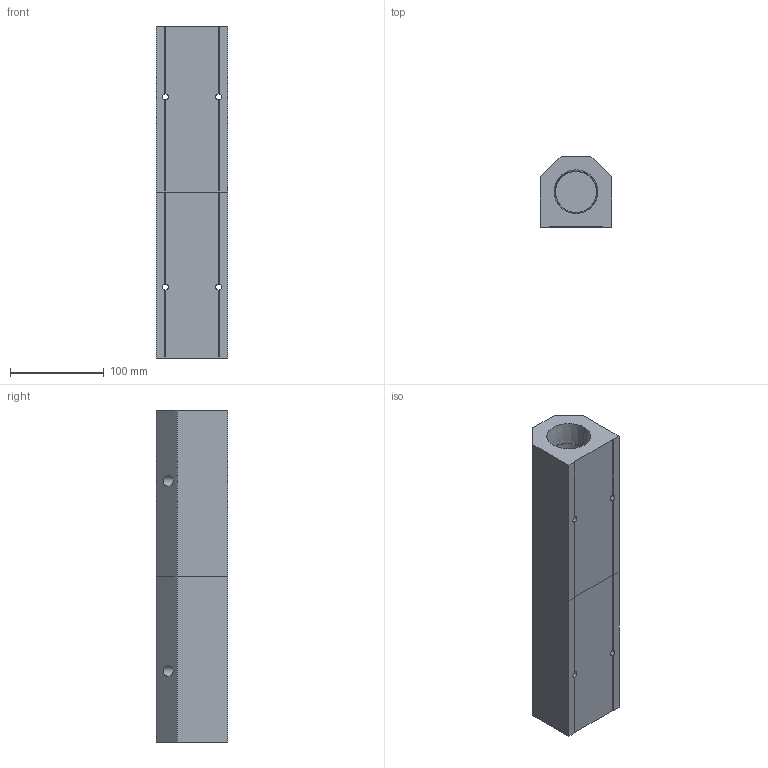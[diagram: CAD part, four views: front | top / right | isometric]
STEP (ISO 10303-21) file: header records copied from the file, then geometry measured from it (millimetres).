
FILE_DESCRIPTION (( 'STEP AP214' ), '1' );
FILE_NAME ('ALM6C-N8N24-355RB.step', '2022-02-07T09:39:44', ( '' ), ( '' ), 'SwSTEP 2.0', 'SolidWorks 2020', '' );
FILE_SCHEMA (( 'AUTOMOTIVE_DESIGN' ));
Length unit declared in the file: millimetre
Products named in the file (1): ALM6C-N8N24-355RB
Bounding box: 76.2 x 76.2 x 355 mm (x, y, z)
Volume: 1291718.5 mm3; surface area: 177211.8 mm2
Topology: 2 solids, 2 shells, 337 faces, 886 edges, 588 vertices
Faces by surface type: plane 214, bspline 87, cylinder 20, cone 16
Entity records: 19194 total; most frequent: CARTESIAN_POINT 8283, ORIENTED_EDGE 1772, DIRECTION 1238, EDGE_CURVE 886, VECTOR 632, LINE 632, VERTEX_POINT 588, EDGE_LOOP 392
